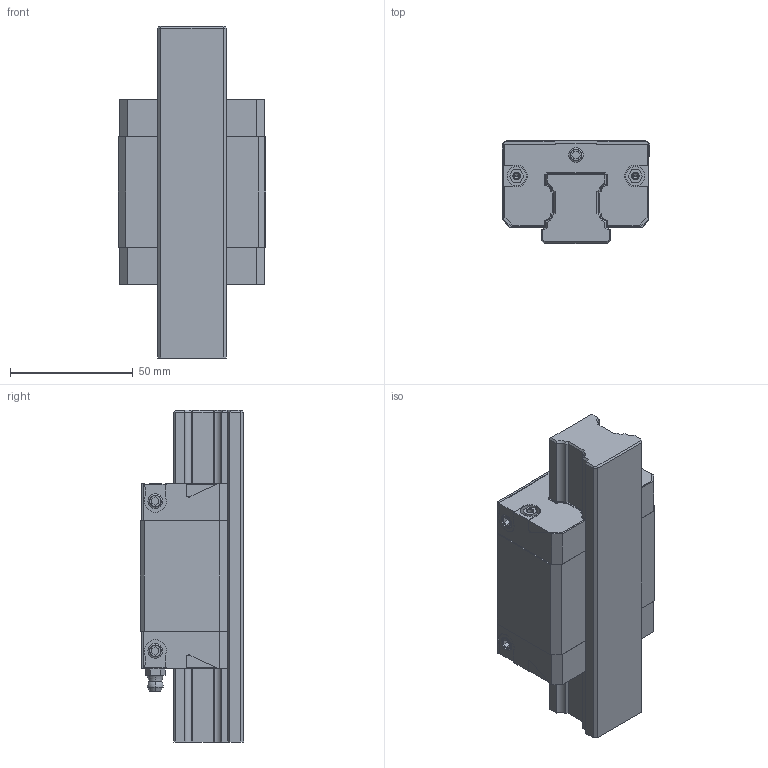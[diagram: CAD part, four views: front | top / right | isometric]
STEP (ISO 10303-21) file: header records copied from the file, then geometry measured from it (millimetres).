
FILE_DESCRIPTION((''),'2;1');
FILE_NAME('KWD_030_SKS_CS__ASM','2021-10-14T07:14:29',('ac91sw'),(''),'CREO PARAMETRIC BY PTC INC, 2020044','CREO PARAMETRIC BY PTC INC, 2020044','');
FILE_SCHEMA(('AUTOMOTIVE_DESIGN { 1 0 10303 214 1 1 1 1 }'));
Length unit declared in the file: millimetre
Products named in the file (7): KWD_030_SKS_CS__SKEL; R201070101; R200170102_Z; R343706101_Z; KWD_030_SKS_CS__PSF; R341700802_Z; KWD_030_SKS_CS__ASM
Assembly tree (11 placements, depth 2):
  KWD_030_SKS_CS__ASM
    KWD_030_SKS_CS__SKEL
    R201070101
    R200170102_Z  x2
    R343706101_Z  x5
    KWD_030_SKS_CS__PSF
    R341700802_Z
Bounding box: 60 x 42 x 135.3 mm (x, y, z)
Volume: 189960.3 mm3; surface area: 52262.8 mm2
Topology: 10 solids, 22 shells, 494 faces, 1266 edges, 804 vertices
Faces by surface type: plane 290, cylinder 134, cone 64, torus 4, sphere 2
Entity records: 15918 total; most frequent: CARTESIAN_POINT 1857, DIRECTION 1548, ORIENTED_EDGE 1468, PROPERTY_DEFINITION 822, REPRESENTATION 813, PROPERTY_DEFINITION_REPRESENTATION 813, DESCRIPTIVE_REPRESENTATION_ITEM 756, GENERAL_PROPERTY 748
